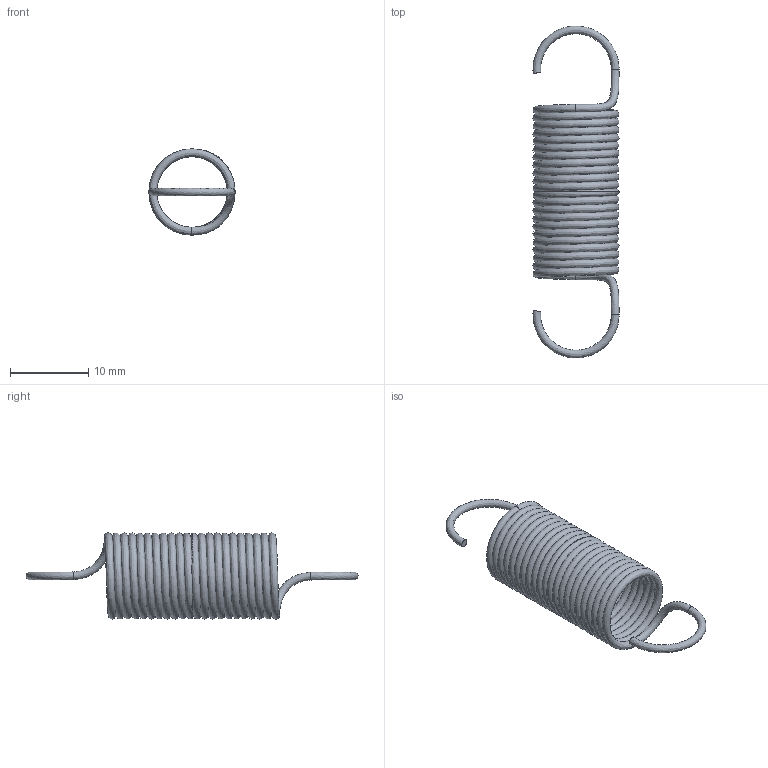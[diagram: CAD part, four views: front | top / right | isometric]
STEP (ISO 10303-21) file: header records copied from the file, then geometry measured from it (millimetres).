
FILE_DESCRIPTION(/* description */ ('24.6 | 034 | 0'),/* implementation_level */ '2;1');
FILE_NAME(/* name */ 'T20940.step',/* time_stamp */ '2026-10-05T10:12:08+02:00',/* author */ ('impex-ready.pl'),/* organization */ ('T20940'),/* preprocessor_version */ 'ST-DEVELOPER v20.1',/* originating_system */ 'Autodesk Inventor 2026',/* authorisation */ 'stal nierdzewna');
FILE_SCHEMA (('AUTOMOTIVE_DESIGN { 1 0 10303 214 3 1 1 }'));
Length unit declared in the file: millimetre
Products named in the file (1): T20940
Bounding box: 10.99 x 42.4 x 11 mm (x, y, z)
Volume: 569.9 mm3; surface area: 2283.8 mm2
Topology: 1 solids, 1 shells, 10 faces, 32 edges, 20 vertices
Faces by surface type: bspline 6, plane 4
Entity records: 4458 total; most frequent: CARTESIAN_POINT 4170, ORIENTED_EDGE 64, DIRECTION 34, EDGE_CURVE 32, B_SPLINE_CURVE_WITH_KNOTS 20, VERTEX_POINT 20, AXIS2_PLACEMENT_3D 17, CIRCLE 12
